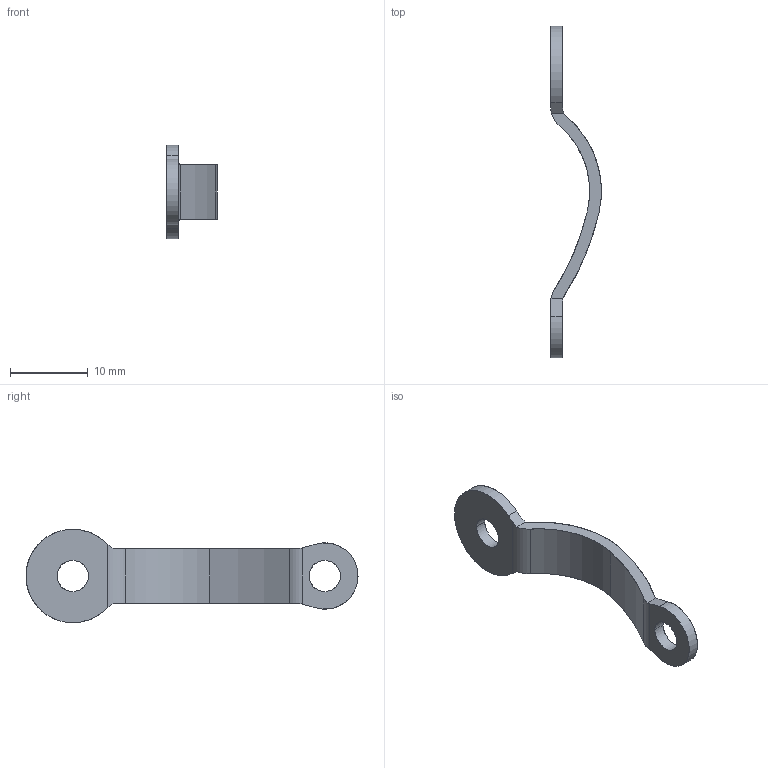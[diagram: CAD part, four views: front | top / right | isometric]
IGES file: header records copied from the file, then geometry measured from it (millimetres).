
Start section: SolidWorks IGES FILE using analytic representation for surfaces
Global section: file name: C:\WINNT\Profiles\cbrechard\Bureau\GE 35\35.030.00.IGS; native system: SolidWorks 2001Plus by SolidWorks Corporation; preprocessor: Version 5.3; author: CBRECHARD; date: 050124.173024; units: millimetre
Bounding box: 6.48 x 42.6 x 12 mm (x, y, z)
Surface area: 841.2 mm2 (no closed solid volume)
Topology: 0 solids, 0 shells, 25 faces, 404 edges, 404 vertices
Faces by surface type: revolution 15, bspline 10
